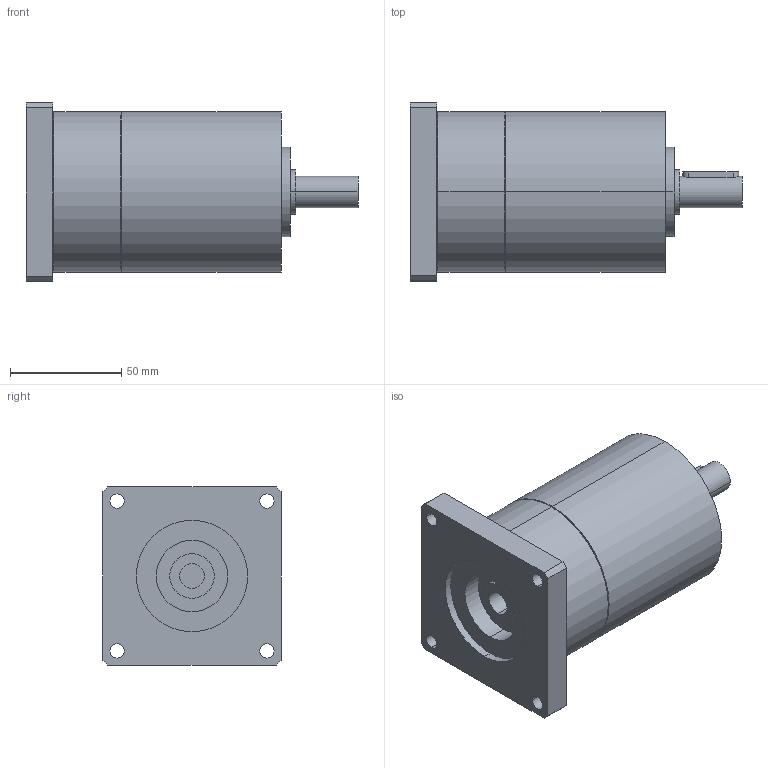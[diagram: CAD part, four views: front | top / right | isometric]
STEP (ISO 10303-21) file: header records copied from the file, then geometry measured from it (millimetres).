
FILE_DESCRIPTION(('CoCreate Modeling STEP Export'),'2;1');
FILE_NAME('GPT75_ig-9-12-16-20-25-28-35-40-50-70-100_14_B14T_11_P27.stp','2014-08-27T13:08:45',(''),(''),'CoCreate Modeling STEP processor for AP214 (Solid Model)','CoCreate Modeling 16.00C 25-Feb-2009 (C) Parametric Technology GmbH','');
FILE_SCHEMA(('AUTOMOTIVE_DESIGN { 1 0 10303 214 1 1 1 1 }'));
Length unit declared in the file: millimetre
Products named in the file (2): GPT75_ig-9-12-16-20-25-28-35-40-50-70-100_14_B14T_11_P27
Assembly tree (1 placements, depth 2):
  GPT75_ig-9-12-16-20-25-28-35-40-50-70-100_14_B14T_11_P27
    GPT75_ig-9-12-16-20-25-28-35-40-50-70-100_14_B14T_11_P27
Bounding box: 149 x 80 x 80 mm (x, y, z)
Volume: 486068.9 mm3; surface area: 46341.6 mm2
Topology: 1 solids, 1 shells, 69 faces, 163 edges, 110 vertices
Faces by surface type: cylinder 42, plane 23, cone 4
Entity records: 2146 total; most frequent: CARTESIAN_POINT 661, ORIENTED_EDGE 326, DIRECTION 262, EDGE_CURVE 163, VERTEX_POINT 110, AXIS2_PLACEMENT_3D 99, EDGE_LOOP 91, FACE_OUTER_BOUND 69
